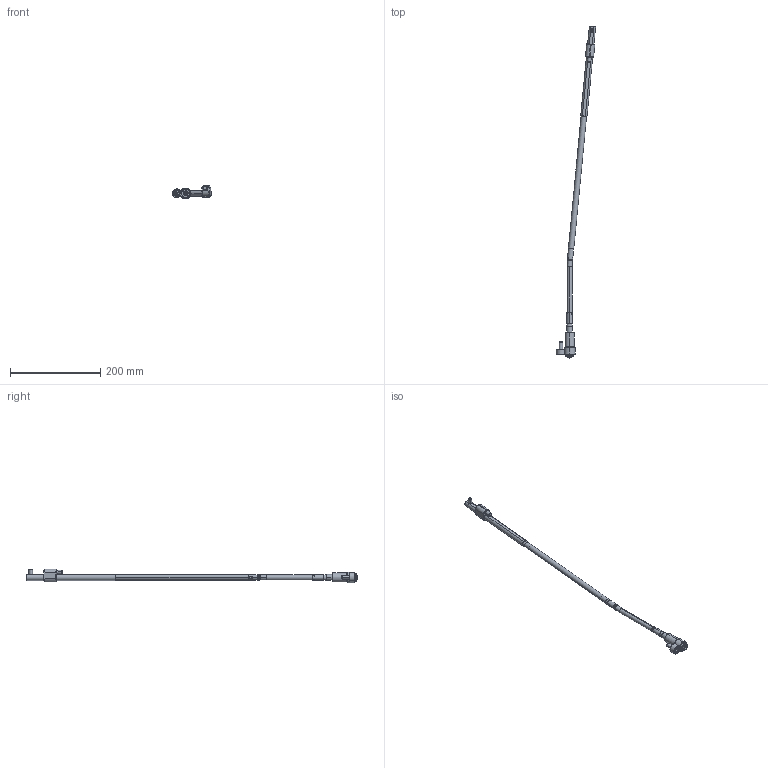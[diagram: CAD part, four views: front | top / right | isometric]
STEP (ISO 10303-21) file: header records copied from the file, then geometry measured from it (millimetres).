
FILE_DESCRIPTION (( 'STEP AP214' ), '1' );
FILE_NAME ('WL120100-INJ 5,5°.STEP', '2021-03-19T15:36:04', ( '' ), ( '' ), 'SwSTEP 2.0', 'SolidWorks 2019', '' );
FILE_SCHEMA (( 'AUTOMOTIVE_DESIGN' ));
Length unit declared in the file: millimetre
Products named in the file (17): WL120100-E; 1DIN912645_DIN 912 M6 x 45 --- 45C; WL120100-INJ 5,5°; Web-WL12-A8; Web-WL12-F00.SLDPRT; WL120100-D; WL120100-B1; Web-WL12-A2; 9DR2808-TOR; Web-WL12-A1; 3IMAN5X3-150_con sellador; WL120100-B; Web-WL12-F01; Web-WL12-XX_OFF-WL120100-5,5; 8WL12EJEP; 1DIN912820_DIN 912 M8 x 20 --- 20C; Web-WL12-A3
Assembly tree (16 placements, depth 3):
  WL120100-INJ 5,5°
    Web-WL12-A8
    Web-WL12-XX_OFF-WL120100-5,5
    Web-WL12-A3
    Web-WL12-A2
    Web-WL12-A1
    Web-WL12-F00.SLDPRT
      Web-WL12-F01
      1DIN912820_DIN 912 M8 x 20 --- 20C
      1DIN912645_DIN 912 M6 x 45 --- 45C
    WL120100-D
    8WL12EJEP
    WL120100-E
    9DR2808-TOR
    WL120100-B
      WL120100-B1
      3IMAN5X3-150_con sellador
Bounding box: 87 x 736.18 x 29.9 mm (x, y, z)
Volume: 113338.9 mm3; surface area: 49841.3 mm2
Topology: 15 solids, 15 shells, 432 faces, 906 edges, 525 vertices
Faces by surface type: plane 139, cylinder 123, cone 120, torus 50
Entity records: 13661 total; most frequent: DIRECTION 2240, CARTESIAN_POINT 2104, ORIENTED_EDGE 1788, AXIS2_PLACEMENT_3D 929, EDGE_CURVE 894, VERTEX_POINT 525, EDGE_LOOP 477, CIRCLE 476
